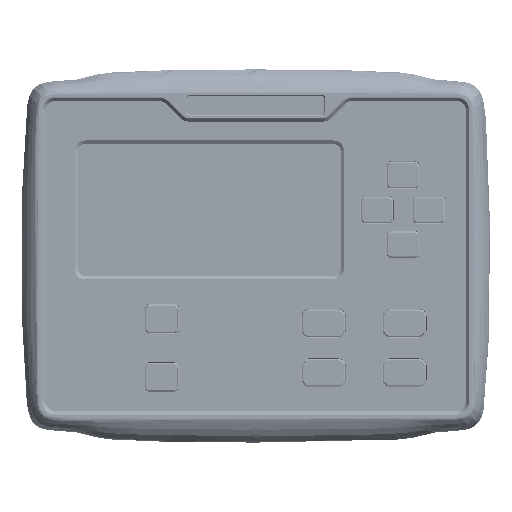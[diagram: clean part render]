
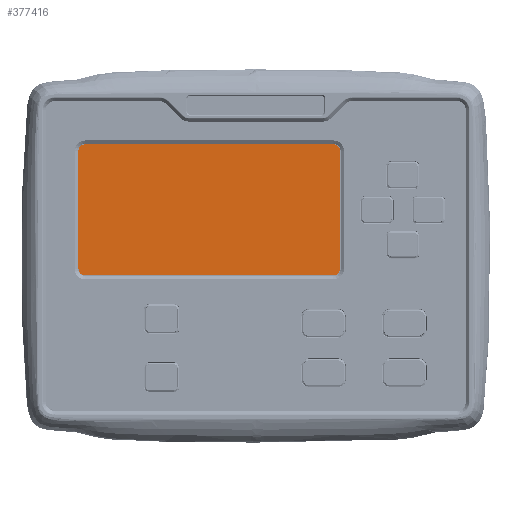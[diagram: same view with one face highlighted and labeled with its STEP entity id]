
A CAD part, top view. The second image highlights one B-rep face of the part: STEP entity #377416.
In plain terms, the highlighted planar face has unit normal (0, 0, 1).
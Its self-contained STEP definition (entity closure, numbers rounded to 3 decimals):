
#2057 = DIRECTION ( 'NONE',  ( -1., 0., 0. ) ) ;
#2097 = DIRECTION ( 'NONE',  ( 0., 0., 1. ) ) ;
#6838 = CARTESIAN_POINT ( 'NONE',  ( 49.472, 47.777, 12.612 ) ) ;
#8710 = EDGE_CURVE ( 'NONE', #267362, #128473, #316098, .T. ) ;
#14357 = CARTESIAN_POINT ( 'NONE',  ( -64.018, 50.777, 12.612 ) ) ;
#19015 = DIRECTION ( 'NONE',  ( 0., 0., 1. ) ) ;
#36279 = CARTESIAN_POINT ( 'NONE',  ( -64.018, -7.623, 12.612 ) ) ;
#44338 = DIRECTION ( 'NONE',  ( 0., 0., 1. ) ) ;
#49430 = CARTESIAN_POINT ( 'NONE',  ( 46.472, -7.623, 12.612 ) ) ;
#49707 = ORIENTED_EDGE ( 'NONE', *, *, #156638, .T. ) ;
#56508 = AXIS2_PLACEMENT_3D ( 'NONE', #287307, #78363, #290331 ) ;
#60368 = EDGE_CURVE ( 'NONE', #428756, #267362, #294875, .T. ) ;
#71351 = AXIS2_PLACEMENT_3D ( 'NONE', #154000, #44338, #292857 ) ;
#73690 = DIRECTION ( 'NONE',  ( 0., 0., 1. ) ) ;
#78363 = DIRECTION ( 'NONE',  ( 0., 0., 1. ) ) ;
#86585 = CARTESIAN_POINT ( 'NONE',  ( -67.018, 47.777, 12.612 ) ) ;
#104601 = VERTEX_POINT ( 'NONE', #352085 ) ;
#109559 = CIRCLE ( 'NONE', #71351, 3. ) ;
#116096 = CARTESIAN_POINT ( 'NONE',  ( 49.472, 21.577, 12.612 ) ) ;
#128473 = VERTEX_POINT ( 'NONE', #49430 ) ;
#129622 = CIRCLE ( 'NONE', #381728, 3. ) ;
#132685 = CARTESIAN_POINT ( 'NONE',  ( -8.773, 50.777, 12.612 ) ) ;
#139795 = ORIENTED_EDGE ( 'NONE', *, *, #60368, .T. ) ;
#154000 = CARTESIAN_POINT ( 'NONE',  ( -64.018, 47.777, 12.612 ) ) ;
#154593 = ORIENTED_EDGE ( 'NONE', *, *, #397846, .T. ) ;
#154698 = DIRECTION ( 'NONE',  ( -1., 0., 0. ) ) ;
#156638 = EDGE_CURVE ( 'NONE', #310719, #240462, #209788, .T. ) ;
#174070 = ORIENTED_EDGE ( 'NONE', *, *, #241499, .T. ) ;
#174088 = VECTOR ( 'NONE', #382689, 1000. ) ;
#193287 = VERTEX_POINT ( 'NONE', #14357 ) ;
#193940 = AXIS2_PLACEMENT_3D ( 'NONE', #209540, #2097, #421464 ) ;
#200106 = EDGE_CURVE ( 'NONE', #240462, #193287, #403976, .T. ) ;
#201385 = VECTOR ( 'NONE', #431720, 1000. ) ;
#209540 = CARTESIAN_POINT ( 'NONE',  ( -64.018, -4.623, 12.612 ) ) ;
#209788 = CIRCLE ( 'NONE', #376571, 3. ) ;
#215658 = PLANE ( 'NONE',  #56508 ) ;
#231165 = EDGE_LOOP ( 'NONE', ( #388920, #139795, #350798, #154593, #290454, #49707, #322139, #174070 ) ) ;
#240462 = VERTEX_POINT ( 'NONE', #249301 ) ;
#241499 = EDGE_CURVE ( 'NONE', #193287, #278745, #109559, .T. ) ;
#249301 = CARTESIAN_POINT ( 'NONE',  ( 46.472, 50.777, 12.612 ) ) ;
#265651 = DIRECTION ( 'NONE',  ( 1., 0., 0. ) ) ;
#267362 = VERTEX_POINT ( 'NONE', #36279 ) ;
#278745 = VERTEX_POINT ( 'NONE', #86585 ) ;
#287307 = CARTESIAN_POINT ( 'NONE',  ( -67.018, -7.623, 12.612 ) ) ;
#290331 = DIRECTION ( 'NONE',  ( 1., 0., 0. ) ) ;
#290454 = ORIENTED_EDGE ( 'NONE', *, *, #414693, .T. ) ;
#292857 = DIRECTION ( 'NONE',  ( -1., 0., 0. ) ) ;
#294875 = CIRCLE ( 'NONE', #193940, 3. ) ;
#310364 = CARTESIAN_POINT ( 'NONE',  ( -67.018, 21.577, 12.612 ) ) ;
#310719 = VERTEX_POINT ( 'NONE', #6838 ) ;
#316098 = LINE ( 'NONE', #373680, #436004 ) ;
#319228 = CARTESIAN_POINT ( 'NONE',  ( 46.472, 47.777, 12.612 ) ) ;
#322139 = ORIENTED_EDGE ( 'NONE', *, *, #200106, .T. ) ;
#322577 = EDGE_CURVE ( 'NONE', #278745, #428756, #365578, .T. ) ;
#331611 = CARTESIAN_POINT ( 'NONE',  ( 46.472, -4.623, 12.612 ) ) ;
#350798 = ORIENTED_EDGE ( 'NONE', *, *, #8710, .T. ) ;
#352085 = CARTESIAN_POINT ( 'NONE',  ( 49.472, -4.623, 12.612 ) ) ;
#355294 = FACE_OUTER_BOUND ( 'NONE', #231165, .T. ) ;
#365578 = LINE ( 'NONE', #310364, #414694 ) ;
#373680 = CARTESIAN_POINT ( 'NONE',  ( -8.773, -7.623, 12.612 ) ) ;
#376571 = AXIS2_PLACEMENT_3D ( 'NONE', #319228, #73690, #2057 ) ;
#377416 = ADVANCED_FACE ( 'NONE', ( #355294 ), #215658, .T. ) ;
#381728 = AXIS2_PLACEMENT_3D ( 'NONE', #331611, #19015, #154698 ) ;
#382689 = DIRECTION ( 'NONE',  ( -1., 0., 0. ) ) ;
#388920 = ORIENTED_EDGE ( 'NONE', *, *, #322577, .T. ) ;
#397846 = EDGE_CURVE ( 'NONE', #128473, #104601, #129622, .T. ) ;
#403976 = LINE ( 'NONE', #132685, #174088 ) ;
#414693 = EDGE_CURVE ( 'NONE', #104601, #310719, #441184, .T. ) ;
#414694 = VECTOR ( 'NONE', #415609, 1000. ) ;
#415609 = DIRECTION ( 'NONE',  ( 0., -1., 0. ) ) ;
#421464 = DIRECTION ( 'NONE',  ( -1., 0., 0. ) ) ;
#421972 = CARTESIAN_POINT ( 'NONE',  ( -67.018, -4.623, 12.612 ) ) ;
#428756 = VERTEX_POINT ( 'NONE', #421972 ) ;
#431720 = DIRECTION ( 'NONE',  ( 0., 1., 0. ) ) ;
#436004 = VECTOR ( 'NONE', #265651, 1000. ) ;
#441184 = LINE ( 'NONE', #116096, #201385 ) ;
